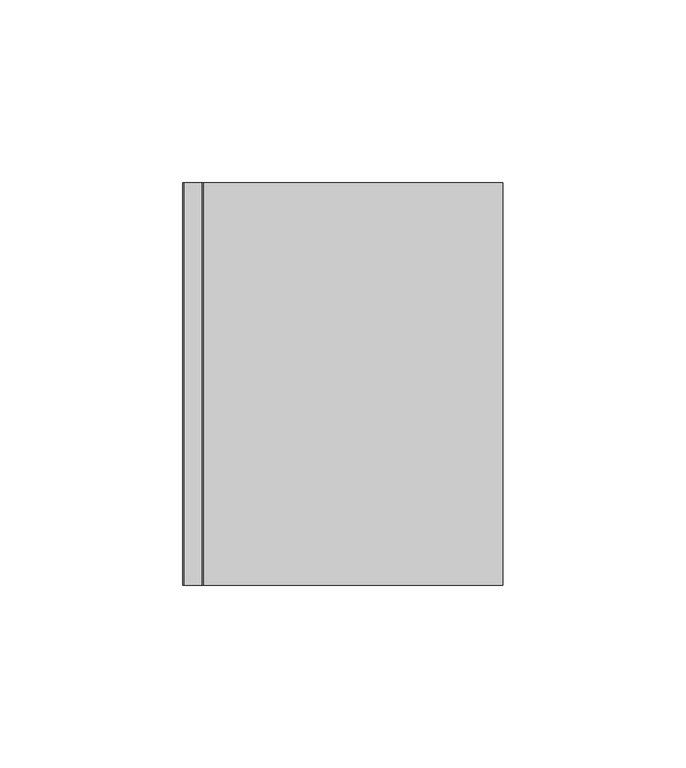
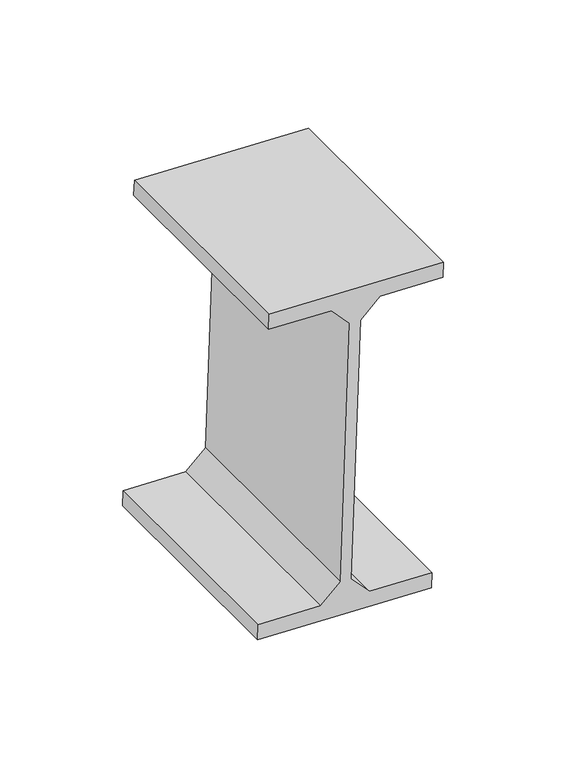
"""IFC4 building model written with IfcOpenShell, lengths in millimetres: beam geometry, Panne 8569 : Panne 8569."""

from ifc_helpers import new_model, si_unit, frame, origin, place, context, project, spatial, polyline, outline, extrude, source, transform, mapped, element, save


def beam_3b9fbc20(model_context):
    return source(origin(), model_context, "Body", "SweptSolid", [
        extrude(outline(polyline([(7809.9121877, 1819.7097791), (7807.043944, 1901.6596002), (7814.4394157, 1901.9184417), (7815.4712838, 1872.4364939), (7824.7805836, 1863.7568086), (7951.9027451, 1868.2060842), (7960.5824305, 1877.515384), (7959.5505623, 1906.9973319), (7966.9460339, 1907.2561734), (7969.8142777, 1825.3063523), (7962.418806, 1825.0475108), (7961.3869378, 1854.5294586), (7952.077638, 1863.2091439), (7824.9554765, 1858.7598683), (7816.2757912, 1849.4505685), (7817.3076594, 1819.9686206), (7809.9121877, 1819.7097791)])), frame((0.0, -15.0, 0.0), z_axis=(0.0, 1.0, 0.0), x_axis=(0.0, 0.0, 1.0)), (0.0, 0.0, 1.0), 110.0),
    ])


if __name__ == "__main__":
    model = new_model("IFC4")
    model_context = context("Model", 3, world=origin())
    ifc_project = project(units=[si_unit("LENGTHUNIT", "METRE", prefix="MILLI")], contexts=[model_context])
    site = spatial("IfcSite", under=ifc_project)
    building = spatial("IfcBuilding", under=site)
    placement = place(None, origin())
    beam_shape = beam_3b9fbc20(model_context)
    element("IfcBeam", 1, ObjectType="Panne 8569 : Panne 8569", at=placement, inside=building, context=model_context, shape_type="MappedRepresentation", body=[
        mapped(beam_shape, transform((0.0, 0.0, 0.0), x_axis=(1.0, 0.0, 0.0), y_axis=(0.0, 1.0, 0.0), z_axis=(0.0, 0.0, 1.0))),
    ])
    save(model, "model.ifc")
